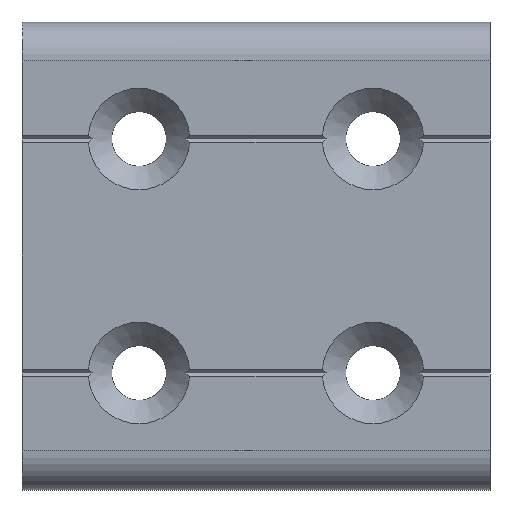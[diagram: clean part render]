
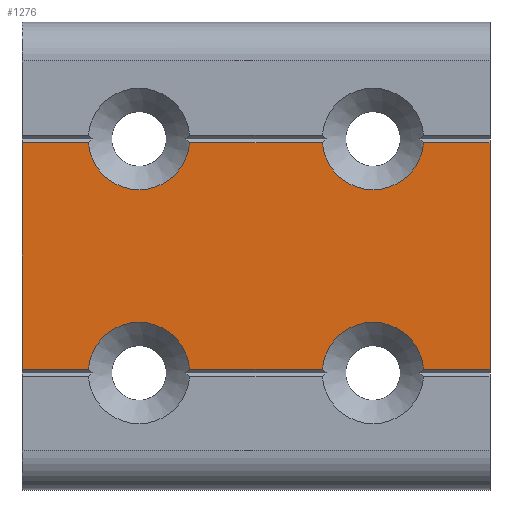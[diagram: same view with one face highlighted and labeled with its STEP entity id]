
A CAD part, front view. The second image highlights one B-rep face of the part: STEP entity #1276.
In plain terms, the highlighted planar face has unit normal (0, -1, 0).
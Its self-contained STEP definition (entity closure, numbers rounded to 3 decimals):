
#47=CIRCLE('',#1330,6.5);
#48=CIRCLE('',#1331,6.5);
#49=CIRCLE('',#1332,6.5);
#50=CIRCLE('',#1333,6.5);
#79=ORIENTED_EDGE('',*,*,#363,.F.);
#80=ORIENTED_EDGE('',*,*,#364,.T.);
#81=ORIENTED_EDGE('',*,*,#365,.F.);
#82=ORIENTED_EDGE('',*,*,#366,.T.);
#83=ORIENTED_EDGE('',*,*,#367,.F.);
#84=ORIENTED_EDGE('',*,*,#368,.T.);
#85=ORIENTED_EDGE('',*,*,#369,.F.);
#86=ORIENTED_EDGE('',*,*,#370,.T.);
#87=ORIENTED_EDGE('',*,*,#371,.F.);
#88=ORIENTED_EDGE('',*,*,#372,.T.);
#89=ORIENTED_EDGE('',*,*,#373,.F.);
#90=ORIENTED_EDGE('',*,*,#374,.T.);
#363=EDGE_CURVE('',#505,#506,#601,.T.);
#364=EDGE_CURVE('',#505,#507,#47,.T.);
#365=EDGE_CURVE('',#508,#507,#602,.T.);
#366=EDGE_CURVE('',#508,#509,#603,.T.);
#367=EDGE_CURVE('',#510,#509,#604,.T.);
#368=EDGE_CURVE('',#510,#511,#48,.T.);
#369=EDGE_CURVE('',#512,#511,#605,.T.);
#370=EDGE_CURVE('',#512,#513,#49,.T.);
#371=EDGE_CURVE('',#514,#513,#606,.T.);
#372=EDGE_CURVE('',#514,#515,#607,.T.);
#373=EDGE_CURVE('',#516,#515,#608,.T.);
#374=EDGE_CURVE('',#516,#506,#50,.T.);
#505=VERTEX_POINT('',#1668);
#506=VERTEX_POINT('',#1669);
#507=VERTEX_POINT('',#1671);
#508=VERTEX_POINT('',#1673);
#509=VERTEX_POINT('',#1675);
#510=VERTEX_POINT('',#1677);
#511=VERTEX_POINT('',#1679);
#512=VERTEX_POINT('',#1681);
#513=VERTEX_POINT('',#1683);
#514=VERTEX_POINT('',#1685);
#515=VERTEX_POINT('',#1687);
#516=VERTEX_POINT('',#1689);
#601=LINE('',#1667,#695);
#602=LINE('',#1672,#696);
#603=LINE('',#1674,#697);
#604=LINE('',#1676,#698);
#605=LINE('',#1680,#699);
#606=LINE('',#1684,#700);
#607=LINE('',#1686,#701);
#608=LINE('',#1688,#702);
#695=VECTOR('',#1413,1000.);
#696=VECTOR('',#1416,1000.);
#697=VECTOR('',#1417,1000.);
#698=VECTOR('',#1418,1000.);
#699=VECTOR('',#1421,1000.);
#700=VECTOR('',#1424,1000.);
#701=VECTOR('',#1425,1000.);
#702=VECTOR('',#1426,1000.);
#789=EDGE_LOOP('',(#79,#80,#81,#82,#83,#84,#85,#86,#87,#88,#89,#90));
#845=FACE_BOUND('',#789,.T.);
#901=PLANE('',#1329);
#1276=ADVANCED_FACE('',(#845),#901,.T.);
#1329=AXIS2_PLACEMENT_3D('',#1666,#1411,#1412);
#1330=AXIS2_PLACEMENT_3D('',#1670,#1414,#1415);
#1331=AXIS2_PLACEMENT_3D('',#1678,#1419,#1420);
#1332=AXIS2_PLACEMENT_3D('',#1682,#1422,#1423);
#1333=AXIS2_PLACEMENT_3D('',#1690,#1427,#1428);
#1411=DIRECTION('',(0.,-1.,0.));
#1412=DIRECTION('',(0.,0.,-1.));
#1413=DIRECTION('',(1.,0.,0.));
#1414=DIRECTION('',(0.,1.,0.));
#1415=DIRECTION('',(0.,0.,1.));
#1416=DIRECTION('',(1.,0.,0.));
#1417=DIRECTION('',(0.,0.,-1.));
#1418=DIRECTION('',(-1.,0.,0.));
#1419=DIRECTION('',(0.,1.,0.));
#1420=DIRECTION('',(0.,0.,1.));
#1421=DIRECTION('',(-1.,0.,0.));
#1422=DIRECTION('',(0.,1.,0.));
#1423=DIRECTION('',(0.,0.,1.));
#1424=DIRECTION('',(-1.,0.,0.));
#1425=DIRECTION('',(0.,0.,1.));
#1426=DIRECTION('',(1.,0.,0.));
#1427=DIRECTION('',(0.,1.,0.));
#1428=DIRECTION('',(0.,0.,1.));
#1666=CARTESIAN_POINT('',(0.,0.,0.));
#1667=CARTESIAN_POINT('',(-55.141,0.,14.5));
#1668=CARTESIAN_POINT('',(-8.519,0.,14.5));
#1669=CARTESIAN_POINT('',(8.519,0.,14.5));
#1670=CARTESIAN_POINT('',(-15.,0.,15.));
#1671=CARTESIAN_POINT('',(-21.481,0.,14.5));
#1672=CARTESIAN_POINT('',(-55.141,0.,14.5));
#1673=CARTESIAN_POINT('',(-30.,0.,14.5));
#1674=CARTESIAN_POINT('',(-30.,0.,30.));
#1675=CARTESIAN_POINT('',(-30.,0.,-14.5));
#1676=CARTESIAN_POINT('',(0.,0.,-14.5));
#1677=CARTESIAN_POINT('',(-21.481,0.,-14.5));
#1678=CARTESIAN_POINT('',(-15.,0.,-15.));
#1679=CARTESIAN_POINT('',(-8.519,0.,-14.5));
#1680=CARTESIAN_POINT('',(0.,0.,-14.5));
#1681=CARTESIAN_POINT('',(8.519,0.,-14.5));
#1682=CARTESIAN_POINT('',(15.,0.,-15.));
#1683=CARTESIAN_POINT('',(21.481,0.,-14.5));
#1684=CARTESIAN_POINT('',(0.,0.,-14.5));
#1685=CARTESIAN_POINT('',(30.,0.,-14.5));
#1686=CARTESIAN_POINT('',(30.,0.,-30.));
#1687=CARTESIAN_POINT('',(30.,0.,14.5));
#1688=CARTESIAN_POINT('',(-55.141,0.,14.5));
#1689=CARTESIAN_POINT('',(21.481,0.,14.5));
#1690=CARTESIAN_POINT('',(15.,0.,15.));
